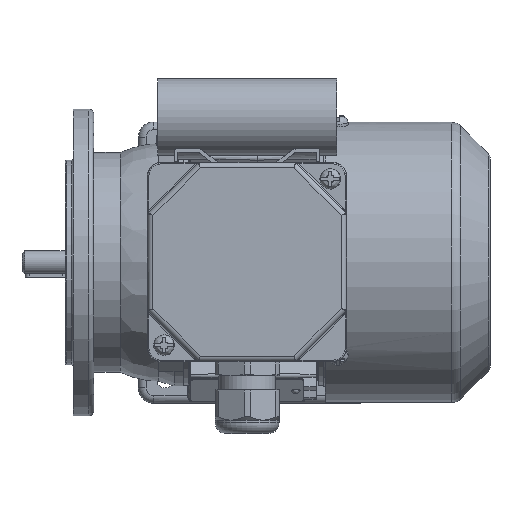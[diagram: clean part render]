
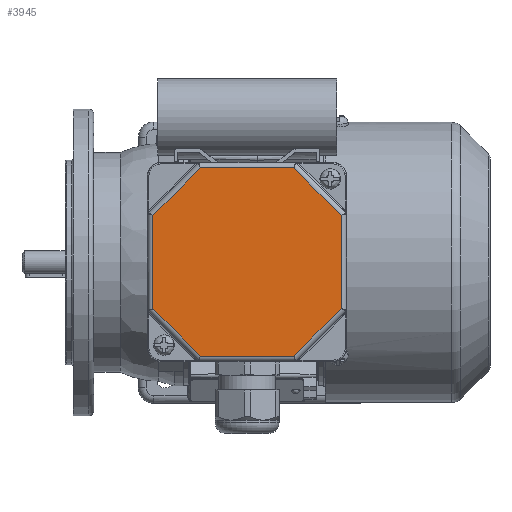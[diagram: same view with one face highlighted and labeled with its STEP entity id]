
A CAD part, top view. The second image highlights one B-rep face of the part: STEP entity #3945.
In plain terms, the highlighted planar face has unit normal (0, 0, 1).
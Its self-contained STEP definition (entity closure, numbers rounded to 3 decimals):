
#3945 = ADVANCED_FACE( '', ( #8524 ), #8525, .T. );
#8524 = FACE_OUTER_BOUND( '', #19621, .T. );
#8525 = PLANE( '', #19622 );
#19621 = EDGE_LOOP( '', ( #34129, #34130, #34131, #34132, #34133, #34134, #34135, #34136 ) );
#19622 = AXIS2_PLACEMENT_3D( '', #34137, #34138, #34139 );
#34129 = ORIENTED_EDGE( '', *, *, #46863, .T. );
#34130 = ORIENTED_EDGE( '', *, *, #44921, .T. );
#34131 = ORIENTED_EDGE( '', *, *, #46864, .T. );
#34132 = ORIENTED_EDGE( '', *, *, #44852, .T. );
#34133 = ORIENTED_EDGE( '', *, *, #45592, .T. );
#34134 = ORIENTED_EDGE( '', *, *, #46865, .T. );
#34135 = ORIENTED_EDGE( '', *, *, #46866, .T. );
#34136 = ORIENTED_EDGE( '', *, *, #46867, .T. );
#34137 = CARTESIAN_POINT( '', ( -39., 39., 12. ) );
#34138 = DIRECTION( '', ( 0., 0., 1. ) );
#34139 = DIRECTION( '', ( 1., 0., 0. ) );
#44852 = EDGE_CURVE( '', #53060, #51124, #53061, .T. );
#44921 = EDGE_CURVE( '', #53163, #52761, #53164, .T. );
#45592 = EDGE_CURVE( '', #51124, #54284, #54285, .F. );
#46863 = EDGE_CURVE( '', #56183, #53163, #56184, .F. );
#46864 = EDGE_CURVE( '', #52761, #53060, #56185, .F. );
#46865 = EDGE_CURVE( '', #54284, #56186, #56187, .T. );
#46866 = EDGE_CURVE( '', #56186, #56188, #56189, .F. );
#46867 = EDGE_CURVE( '', #56188, #56183, #56190, .T. );
#51124 = VERTEX_POINT( '', #61341 );
#52761 = VERTEX_POINT( '', #65028 );
#53060 = VERTEX_POINT( '', #65757 );
#53061 = LINE( '', #65758, #65759 );
#53163 = VERTEX_POINT( '', #65903 );
#53164 = LINE( '', #65904, #65905 );
#54284 = VERTEX_POINT( '', #68117 );
#54285 = LINE( '', #68118, #68119 );
#56183 = VERTEX_POINT( '', #72885 );
#56184 = LINE( '', #72886, #72887 );
#56185 = LINE( '', #72888, #72889 );
#56186 = VERTEX_POINT( '', #72890 );
#56187 = LINE( '', #72891, #72892 );
#56188 = VERTEX_POINT( '', #72893 );
#56189 = LINE( '', #72894, #72895 );
#56190 = LINE( '', #72896, #72897 );
#61341 = CARTESIAN_POINT( '', ( -36.825, 18.255, 12. ) );
#65028 = CARTESIAN_POINT( '', ( 18.255, 36.825, 12. ) );
#65757 = CARTESIAN_POINT( '', ( -18.255, 36.825, 12. ) );
#65758 = CARTESIAN_POINT( '', ( -37.401, 17.679, 12. ) );
#65759 = VECTOR( '', #82211, 1000. );
#65903 = CARTESIAN_POINT( '', ( 36.825, 18.255, 12. ) );
#65904 = CARTESIAN_POINT( '', ( 17.679, 37.401, 12. ) );
#65905 = VECTOR( '', #82303, 1000. );
#68117 = CARTESIAN_POINT( '', ( -36.825, -18.255, 12. ) );
#68118 = CARTESIAN_POINT( '', ( -36.825, -19.069, 12. ) );
#68119 = VECTOR( '', #83356, 1000. );
#72885 = CARTESIAN_POINT( '', ( 36.825, -18.255, 12. ) );
#72886 = CARTESIAN_POINT( '', ( 36.825, 19.069, 12. ) );
#72887 = VECTOR( '', #84788, 1000. );
#72888 = CARTESIAN_POINT( '', ( -19.069, 36.825, 12. ) );
#72889 = VECTOR( '', #84789, 1000. );
#72890 = CARTESIAN_POINT( '', ( -18.255, -36.825, 12. ) );
#72891 = CARTESIAN_POINT( '', ( -17.679, -37.401, 12. ) );
#72892 = VECTOR( '', #84790, 1000. );
#72893 = CARTESIAN_POINT( '', ( 18.255, -36.825, 12. ) );
#72894 = CARTESIAN_POINT( '', ( 19.069, -36.825, 12. ) );
#72895 = VECTOR( '', #84791, 1000. );
#72896 = CARTESIAN_POINT( '', ( 37.401, -17.679, 12. ) );
#72897 = VECTOR( '', #84792, 1000. );
#82211 = DIRECTION( '', ( -0.707, -0.707, 0. ) );
#82303 = DIRECTION( '', ( -0.707, 0.707, 0. ) );
#83356 = DIRECTION( '', ( 0., 1., 0. ) );
#84788 = DIRECTION( '', ( 0., -1., 0. ) );
#84789 = DIRECTION( '', ( 1., 0., 0. ) );
#84790 = DIRECTION( '', ( 0.707, -0.707, 0. ) );
#84791 = DIRECTION( '', ( -1., 0., 0. ) );
#84792 = DIRECTION( '', ( 0.707, 0.707, 0. ) );
